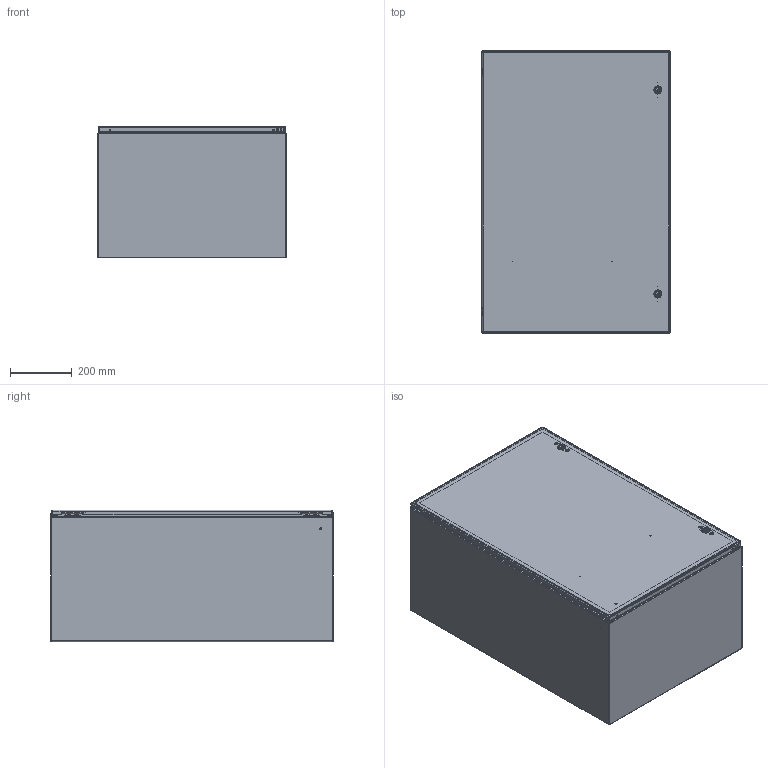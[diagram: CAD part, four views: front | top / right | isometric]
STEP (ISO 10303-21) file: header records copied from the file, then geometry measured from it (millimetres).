
FILE_DESCRIPTION (( 'STEP AP203' ), '1' );
FILE_NAME ('csd362416lg.STEP', '2016-01-27T19:18:43', ( '' ), ( '' ), 'SwSTEP 2.0', 'SolidWorks 2014', '' );
FILE_SCHEMA (( 'CONFIG_CONTROL_DESIGN' ));
Length unit declared in the file: inch
Products named in the file (29): 87929767; 64138001; 87541994_Installed Height; 89116691_default; 87929769_Installed on Pin; 87938009; 87541995; 99401225; 87929507; 87937943_assy; 64202001; 23271001_After Weld; csd362416lg; 87543027; 64210001; 89116694; 89076193; 64203001; 87936142; 89056623; 87927840_87927840; 87931362_87931362; 89076399; 64101001; 87937983_weldment; 89046604_B18.6.7M - M5 x 0.8 x 16 Type I Cross Recessed FHMS --16N; 87932903; 64201001; 89116693_default
Assembly tree (51 placements, depth 4):
  csd362416lg
    89116694
      89116693_default
      89116691_default  x2
      99401225
      23271001_After Weld  x6
    87937943_assy
      87937983_weldment
        87936142
        99401225
        87931362_87931362  x6
      64101001  x2
        64201001
        87541994_Installed Height
        87541995
        64202001
        64210001
        64203001
        87927840_87927840
      87932903  x4
      64138001  x2
      87938009
    87543027  x2
    89076399  x2
      89076193
      89056623
    89046604_B18.6.7M - M5 x 0.8 x 16 Type I Cross Recessed FHMS --16N  x4
    87929507  x2
      87929767
      87929769_Installed on Pin
Bounding box: 609.6 x 914.7 x 427.1 mm (x, y, z)
Volume: 4760472.1 mm3; surface area: 5113532.8 mm2
Topology: 55 solids, 55 shells, 2471 faces, 6046 edges, 3648 vertices
Faces by surface type: plane 919, cylinder 744, bspline 504, cone 156, torus 140, sphere 8
Entity records: 46679 total; most frequent: CARTESIAN_POINT 15890, ORIENTED_EDGE 5902, DIRECTION 5259, EDGE_CURVE 2951, AXIS2_PLACEMENT_3D 1903, VERTEX_POINT 1822, VECTOR 1453, LINE 1453
